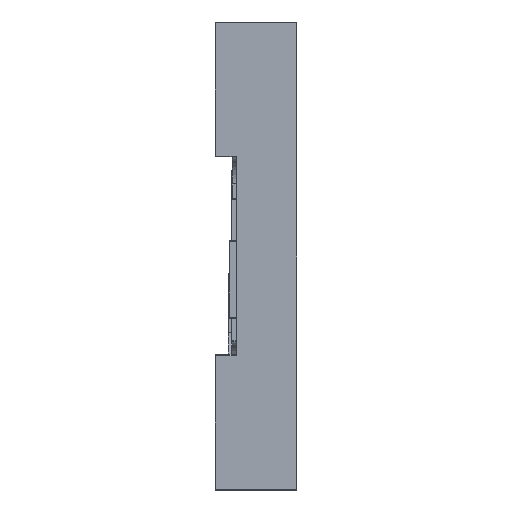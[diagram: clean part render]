
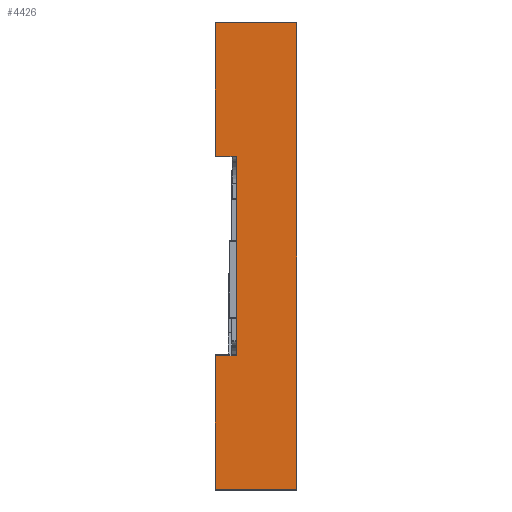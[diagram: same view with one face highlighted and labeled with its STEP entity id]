
A CAD part, front view. The second image highlights one B-rep face of the part: STEP entity #4426.
In plain terms, the highlighted planar face has unit normal (0, -1, 0).
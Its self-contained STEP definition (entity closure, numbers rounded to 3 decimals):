
#210 = PLANE ( 'NONE',  #3979 ) ;
#249 = CARTESIAN_POINT ( 'NONE',  ( 0., -38., -25.9 ) ) ;
#361 = LINE ( 'NONE', #559, #614 ) ;
#363 = DIRECTION ( 'NONE',  ( 1., 0., 0. ) ) ;
#378 = ORIENTED_EDGE ( 'NONE', *, *, #5188, .T. ) ;
#505 = EDGE_CURVE ( 'NONE', #5214, #5092, #4856, .T. ) ;
#526 = DIRECTION ( 'NONE',  ( 0., 0., -1. ) ) ;
#559 = CARTESIAN_POINT ( 'NONE',  ( 9., -38., -25.9 ) ) ;
#564 = DIRECTION ( 'NONE',  ( 0., 0., 1. ) ) ;
#614 = VECTOR ( 'NONE', #3378, 1000. ) ;
#615 = ORIENTED_EDGE ( 'NONE', *, *, #3591, .F. ) ;
#647 = CARTESIAN_POINT ( 'NONE',  ( 0., -38., 26. ) ) ;
#656 = VECTOR ( 'NONE', #2181, 1000. ) ;
#728 = CARTESIAN_POINT ( 'NONE',  ( 9., -38., 11.1 ) ) ;
#764 = VERTEX_POINT ( 'NONE', #3801 ) ;
#834 = VERTEX_POINT ( 'NONE', #3874 ) ;
#983 = CARTESIAN_POINT ( 'NONE',  ( 2.3, -38., -11.1 ) ) ;
#1063 = LINE ( 'NONE', #728, #5251 ) ;
#1102 = ORIENTED_EDGE ( 'NONE', *, *, #3999, .T. ) ;
#1218 = CARTESIAN_POINT ( 'NONE',  ( 9., -38., 25.9 ) ) ;
#1322 = CARTESIAN_POINT ( 'NONE',  ( 0., -38., 26. ) ) ;
#1373 = VECTOR ( 'NONE', #4781, 1000. ) ;
#1468 = CARTESIAN_POINT ( 'NONE',  ( 9., -38., 25.9 ) ) ;
#1481 = CARTESIAN_POINT ( 'NONE',  ( 2.3, -38., 11. ) ) ;
#1518 = VERTEX_POINT ( 'NONE', #249 ) ;
#1627 = DIRECTION ( 'NONE',  ( 0., 0., -1. ) ) ;
#1757 = LINE ( 'NONE', #1468, #5054 ) ;
#1867 = DIRECTION ( 'NONE',  ( 0., 1., 0. ) ) ;
#2149 = CARTESIAN_POINT ( 'NONE',  ( 9., -38., -11.1 ) ) ;
#2181 = DIRECTION ( 'NONE',  ( -1., 0., 0. ) ) ;
#2226 = ORIENTED_EDGE ( 'NONE', *, *, #3226, .T. ) ;
#2288 = EDGE_LOOP ( 'NONE', ( #1102, #4827, #4562, #2226, #2430, #378, #615, #3474 ) ) ;
#2430 = ORIENTED_EDGE ( 'NONE', *, *, #5240, .T. ) ;
#2581 = VECTOR ( 'NONE', #4387, 1000. ) ;
#2615 = VERTEX_POINT ( 'NONE', #4620 ) ;
#2973 = LINE ( 'NONE', #4049, #4597 ) ;
#3226 = EDGE_CURVE ( 'NONE', #5214, #2615, #3560, .T. ) ;
#3243 = LINE ( 'NONE', #1322, #3310 ) ;
#3310 = VECTOR ( 'NONE', #526, 1000. ) ;
#3316 = VERTEX_POINT ( 'NONE', #5156 ) ;
#3378 = DIRECTION ( 'NONE',  ( 1., 0., 0. ) ) ;
#3398 = EDGE_CURVE ( 'NONE', #4125, #764, #1757, .T. ) ;
#3466 = CARTESIAN_POINT ( 'NONE',  ( 9., -38., 26. ) ) ;
#3474 = ORIENTED_EDGE ( 'NONE', *, *, #3398, .T. ) ;
#3491 = FACE_OUTER_BOUND ( 'NONE', #2288, .T. ) ;
#3560 = LINE ( 'NONE', #2149, #656 ) ;
#3578 = DIRECTION ( 'NONE',  ( -1., 0., 0. ) ) ;
#3591 = EDGE_CURVE ( 'NONE', #4125, #834, #2973, .T. ) ;
#3645 = EDGE_CURVE ( 'NONE', #3316, #5092, #1063, .T. ) ;
#3754 = CARTESIAN_POINT ( 'NONE',  ( 2.3, -38., 11.1 ) ) ;
#3801 = CARTESIAN_POINT ( 'NONE',  ( 0., -38., 25.9 ) ) ;
#3874 = CARTESIAN_POINT ( 'NONE',  ( 9., -38., -25.9 ) ) ;
#3979 = AXIS2_PLACEMENT_3D ( 'NONE', #3466, #1867, #564 ) ;
#3999 = EDGE_CURVE ( 'NONE', #764, #3316, #4797, .T. ) ;
#4049 = CARTESIAN_POINT ( 'NONE',  ( 9., -38., 26. ) ) ;
#4125 = VERTEX_POINT ( 'NONE', #1218 ) ;
#4387 = DIRECTION ( 'NONE',  ( 0., 0., -1. ) ) ;
#4426 = ADVANCED_FACE ( 'NONE', ( #3491 ), #210, .F. ) ;
#4562 = ORIENTED_EDGE ( 'NONE', *, *, #505, .F. ) ;
#4597 = VECTOR ( 'NONE', #1627, 1000. ) ;
#4620 = CARTESIAN_POINT ( 'NONE',  ( 0., -38., -11.1 ) ) ;
#4781 = DIRECTION ( 'NONE',  ( 0., 0., 1. ) ) ;
#4797 = LINE ( 'NONE', #647, #2581 ) ;
#4827 = ORIENTED_EDGE ( 'NONE', *, *, #3645, .T. ) ;
#4856 = LINE ( 'NONE', #1481, #1373 ) ;
#5054 = VECTOR ( 'NONE', #3578, 1000. ) ;
#5092 = VERTEX_POINT ( 'NONE', #3754 ) ;
#5156 = CARTESIAN_POINT ( 'NONE',  ( 0., -38., 11.1 ) ) ;
#5188 = EDGE_CURVE ( 'NONE', #1518, #834, #361, .T. ) ;
#5214 = VERTEX_POINT ( 'NONE', #983 ) ;
#5240 = EDGE_CURVE ( 'NONE', #2615, #1518, #3243, .T. ) ;
#5251 = VECTOR ( 'NONE', #363, 1000. ) ;
